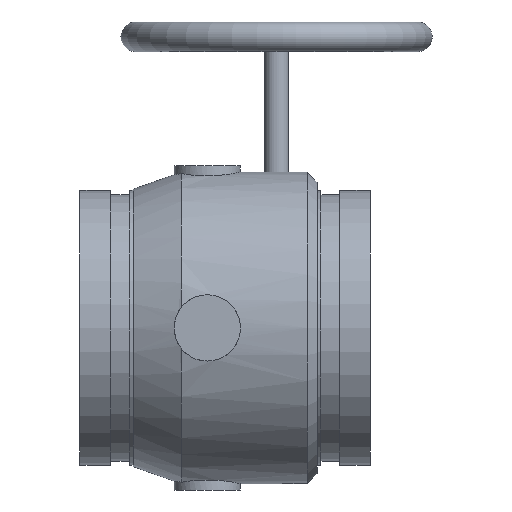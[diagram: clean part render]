
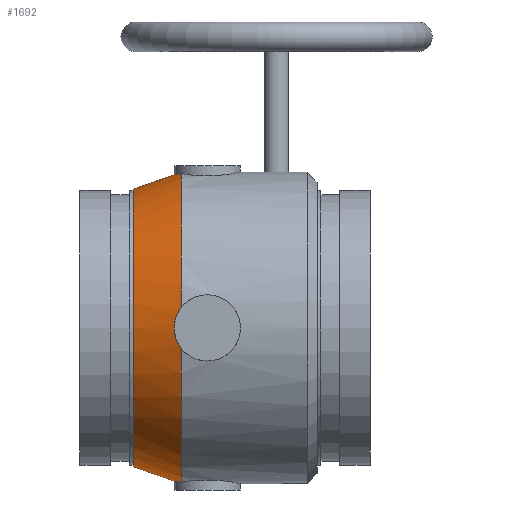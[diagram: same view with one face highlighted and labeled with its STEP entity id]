
A CAD part, front view. The second image highlights one B-rep face of the part: STEP entity #1692.
In plain terms, the highlighted conical face has half-angle 19.339 degrees and reference radius 75.687 mm.
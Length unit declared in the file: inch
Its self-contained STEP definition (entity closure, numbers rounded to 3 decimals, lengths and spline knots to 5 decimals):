
#25=B_SPLINE_CURVE_WITH_KNOTS('',3,(#2796,#2797,#2798,#2799,#2800,#2801,
#2802,#2803,#2804,#2805,#2806,#2807,#2808,#2809,#2810,#2811,#2812,#2813),
 .UNSPECIFIED.,.F.,.F.,(4,2,2,2,2,2,2,2,4),(3.55256,3.709,
4.01373,4.31846,4.62319,4.92791,5.23264,
5.53737,5.69382),.UNSPECIFIED.);
#26=B_SPLINE_CURVE_WITH_KNOTS('',3,(#2820,#2821,#2822,#2823,#2824,#2825,
#2826,#2827,#2828,#2829),.UNSPECIFIED.,.F.,.F.,(4,2,2,2,4),(4.62319,
4.92791,5.23264,5.53737,5.69382),
 .UNSPECIFIED.);
#27=B_SPLINE_CURVE_WITH_KNOTS('',3,(#2835,#2836,#2837,#2838,#2839,#2840,
#2841,#2842,#2843,#2844),.UNSPECIFIED.,.F.,.F.,(4,2,2,2,4),(3.55256,
3.709,4.01373,4.31846,4.62319),
 .UNSPECIFIED.);
#28=B_SPLINE_CURVE_WITH_KNOTS('',3,(#2845,#2846,#2847,#2848,#2849,#2850,
#2851,#2852,#2853,#2854,#2855,#2856,#2857,#2858,#2859,#2860,#2861,#2862),
 .UNSPECIFIED.,.F.,.F.,(4,2,2,2,2,2,2,2,4),(3.55256,3.709,
4.01373,4.31846,4.62319,4.92791,5.23264,
5.53737,5.69382),.UNSPECIFIED.);
#46=CONICAL_SURFACE('',#1820,2.97979,0.338);
#105=CIRCLE('',#1809,3.15);
#106=CIRCLE('',#1810,3.15);
#108=CIRCLE('',#1812,3.15);
#109=CIRCLE('',#1813,3.15);
#113=CIRCLE('',#1821,2.80958);
#114=CIRCLE('',#1822,2.80958);
#115=CIRCLE('',#1823,3.15);
#214=FACE_OUTER_BOUND('',#307,.T.);
#307=EDGE_LOOP('',(#1138,#1139,#1140,#1141,#1142,#1143,#1144,#1145,#1146,
#1147,#1148,#1149,#1150));
#436=LINE('',#2831,#550);
#550=VECTOR('',#2081,2.97979);
#657=VERTEX_POINT('',#2556);
#658=VERTEX_POINT('',#2586);
#660=VERTEX_POINT('',#2617);
#661=VERTEX_POINT('',#2647);
#668=VERTEX_POINT('',#2688);
#669=VERTEX_POINT('',#2699);
#671=VERTEX_POINT('',#2731);
#672=VERTEX_POINT('',#2760);
#676=VERTEX_POINT('',#2819);
#677=VERTEX_POINT('',#2830);
#678=VERTEX_POINT('',#2832);
#835=EDGE_CURVE('',#657,#658,#105,.T.);
#838=EDGE_CURVE('',#660,#661,#106,.T.);
#846=EDGE_CURVE('',#668,#669,#108,.T.);
#849=EDGE_CURVE('',#671,#672,#109,.T.);
#853=EDGE_CURVE('',#660,#658,#25,.T.);
#856=EDGE_CURVE('',#676,#657,#26,.T.);
#857=EDGE_CURVE('',#676,#677,#436,.T.);
#858=EDGE_CURVE('',#677,#678,#113,.T.);
#859=EDGE_CURVE('',#678,#677,#114,.T.);
#860=EDGE_CURVE('',#672,#676,#27,.T.);
#861=EDGE_CURVE('',#671,#669,#28,.T.);
#862=EDGE_CURVE('',#661,#668,#115,.T.);
#1138=ORIENTED_EDGE('',*,*,#853,.T.);
#1139=ORIENTED_EDGE('',*,*,#835,.F.);
#1140=ORIENTED_EDGE('',*,*,#856,.F.);
#1141=ORIENTED_EDGE('',*,*,#857,.T.);
#1142=ORIENTED_EDGE('',*,*,#858,.T.);
#1143=ORIENTED_EDGE('',*,*,#859,.T.);
#1144=ORIENTED_EDGE('',*,*,#857,.F.);
#1145=ORIENTED_EDGE('',*,*,#860,.F.);
#1146=ORIENTED_EDGE('',*,*,#849,.F.);
#1147=ORIENTED_EDGE('',*,*,#861,.T.);
#1148=ORIENTED_EDGE('',*,*,#846,.F.);
#1149=ORIENTED_EDGE('',*,*,#862,.F.);
#1150=ORIENTED_EDGE('',*,*,#838,.F.);
#1692=ADVANCED_FACE('',(#214),#46,.T.);
#1809=AXIS2_PLACEMENT_3D('',#2587,#2054,#2055);
#1810=AXIS2_PLACEMENT_3D('',#2648,#2056,#2057);
#1812=AXIS2_PLACEMENT_3D('',#2700,#2062,#2063);
#1813=AXIS2_PLACEMENT_3D('',#2761,#2064,#2065);
#1820=AXIS2_PLACEMENT_3D('',#2818,#2079,#2080);
#1821=AXIS2_PLACEMENT_3D('',#2833,#2082,#2083);
#1822=AXIS2_PLACEMENT_3D('',#2834,#2084,#2085);
#1823=AXIS2_PLACEMENT_3D('',#2863,#2086,#2087);
#2054=DIRECTION('center_axis',(1.,0.,0.));
#2055=DIRECTION('ref_axis',(0.,0.,-1.));
#2056=DIRECTION('center_axis',(1.,0.,0.));
#2057=DIRECTION('ref_axis',(0.,0.,-1.));
#2062=DIRECTION('center_axis',(1.,0.,0.));
#2063=DIRECTION('ref_axis',(0.,0.,-1.));
#2064=DIRECTION('center_axis',(1.,0.,0.));
#2065=DIRECTION('ref_axis',(0.,0.,-1.));
#2079=DIRECTION('center_axis',(1.,0.,0.));
#2080=DIRECTION('ref_axis',(0.,1.,0.));
#2081=DIRECTION('',(-0.944,0.331,0.));
#2082=DIRECTION('center_axis',(1.,0.,0.));
#2083=DIRECTION('ref_axis',(0.,0.,-1.));
#2084=DIRECTION('center_axis',(1.,0.,0.));
#2085=DIRECTION('ref_axis',(0.,0.,-1.));
#2086=DIRECTION('center_axis',(1.,0.,0.));
#2087=DIRECTION('ref_axis',(0.,1.,0.));
#2556=CARTESIAN_POINT('',(-0.53,-3.12322,-0.40988));
#2586=CARTESIAN_POINT('',(-0.53,-0.40988,-3.12322));
#2587=CARTESIAN_POINT('Origin',(-0.53,0.,
0.));
#2617=CARTESIAN_POINT('',(-0.53,0.40988,-3.12322));
#2647=CARTESIAN_POINT('',(-0.53,3.12386,-0.405));
#2648=CARTESIAN_POINT('Origin',(-0.53,0.,
0.));
#2688=CARTESIAN_POINT('',(-0.53,3.12386,0.405));
#2699=CARTESIAN_POINT('',(-0.53,0.40988,3.12322));
#2700=CARTESIAN_POINT('Origin',(-0.53,0.,
0.));
#2731=CARTESIAN_POINT('',(-0.53,-0.40988,3.12322));
#2760=CARTESIAN_POINT('',(-0.53,-3.12322,0.40988));
#2761=CARTESIAN_POINT('Origin',(-0.53,0.,
0.));
#2796=CARTESIAN_POINT('Ctrl Pts',(-0.53,0.40988,
-3.12322));
#2797=CARTESIAN_POINT('Ctrl Pts',(-0.54285,0.39327,
-3.12085));
#2798=CARTESIAN_POINT('Ctrl Pts',(-0.55509,0.37582,
-3.11868));
#2799=CARTESIAN_POINT('Ctrl Pts',(-0.58887,0.3223,
-3.11289));
#2800=CARTESIAN_POINT('Ctrl Pts',(-0.60821,0.28423,
-3.10984));
#2801=CARTESIAN_POINT('Ctrl Pts',(-0.63926,0.20508,-3.10514));
#2802=CARTESIAN_POINT('Ctrl Pts',(-0.65099,0.16395,-3.10349));
#2803=CARTESIAN_POINT('Ctrl Pts',(-0.66636,0.0814,
-3.10135));
#2804=CARTESIAN_POINT('Ctrl Pts',(-0.67,0.03999,-3.10087));
#2805=CARTESIAN_POINT('Ctrl Pts',(-0.67,-0.03999,-3.10087));
#2806=CARTESIAN_POINT('Ctrl Pts',(-0.66636,-0.0814,
-3.10135));
#2807=CARTESIAN_POINT('Ctrl Pts',(-0.65099,-0.16395,
-3.10349));
#2808=CARTESIAN_POINT('Ctrl Pts',(-0.63926,-0.20508,-3.10514));
#2809=CARTESIAN_POINT('Ctrl Pts',(-0.60821,-0.28423,
-3.10984));
#2810=CARTESIAN_POINT('Ctrl Pts',(-0.58887,-0.3223,
-3.11289));
#2811=CARTESIAN_POINT('Ctrl Pts',(-0.55509,-0.37582,
-3.11868));
#2812=CARTESIAN_POINT('Ctrl Pts',(-0.54285,-0.39327,
-3.12085));
#2813=CARTESIAN_POINT('Ctrl Pts',(-0.53,-0.40988,
-3.12322));
#2818=CARTESIAN_POINT('Origin',(-1.015,0.,0.));
#2819=CARTESIAN_POINT('',(-0.67,-3.10087,0.));
#2820=CARTESIAN_POINT('Ctrl Pts',(-0.67,-3.10087,0.));
#2821=CARTESIAN_POINT('Ctrl Pts',(-0.67,-3.10087,-0.03999));
#2822=CARTESIAN_POINT('Ctrl Pts',(-0.66636,-3.10135,
-0.0814));
#2823=CARTESIAN_POINT('Ctrl Pts',(-0.65099,-3.10349,
-0.16395));
#2824=CARTESIAN_POINT('Ctrl Pts',(-0.63926,-3.10514,-0.20508));
#2825=CARTESIAN_POINT('Ctrl Pts',(-0.60821,-3.10984,
-0.28423));
#2826=CARTESIAN_POINT('Ctrl Pts',(-0.58887,-3.11289,
-0.3223));
#2827=CARTESIAN_POINT('Ctrl Pts',(-0.55509,-3.11868,
-0.37582));
#2828=CARTESIAN_POINT('Ctrl Pts',(-0.54285,-3.12085,
-0.39327));
#2829=CARTESIAN_POINT('Ctrl Pts',(-0.53,-3.12322,
-0.40988));
#2830=CARTESIAN_POINT('',(-1.5,-2.80958,0.));
#2831=CARTESIAN_POINT('',(-1.015,-2.97979,0.));
#2832=CARTESIAN_POINT('',(-1.5,2.80958,0.));
#2833=CARTESIAN_POINT('Origin',(-1.5,0.,0.));
#2834=CARTESIAN_POINT('Origin',(-1.5,0.,0.));
#2835=CARTESIAN_POINT('Ctrl Pts',(-0.53,-3.12322,
0.40988));
#2836=CARTESIAN_POINT('Ctrl Pts',(-0.54285,-3.12085,
0.39327));
#2837=CARTESIAN_POINT('Ctrl Pts',(-0.55509,-3.11868,
0.37582));
#2838=CARTESIAN_POINT('Ctrl Pts',(-0.58887,-3.11289,
0.3223));
#2839=CARTESIAN_POINT('Ctrl Pts',(-0.60821,-3.10984,
0.28423));
#2840=CARTESIAN_POINT('Ctrl Pts',(-0.63926,-3.10514,0.20508));
#2841=CARTESIAN_POINT('Ctrl Pts',(-0.65099,-3.10349,
0.16395));
#2842=CARTESIAN_POINT('Ctrl Pts',(-0.66636,-3.10135,
0.0814));
#2843=CARTESIAN_POINT('Ctrl Pts',(-0.67,-3.10087,0.03999));
#2844=CARTESIAN_POINT('Ctrl Pts',(-0.67,-3.10087,0.));
#2845=CARTESIAN_POINT('Ctrl Pts',(-0.53,-0.40988,
3.12322));
#2846=CARTESIAN_POINT('Ctrl Pts',(-0.54285,-0.39327,
3.12085));
#2847=CARTESIAN_POINT('Ctrl Pts',(-0.55509,-0.37582,
3.11868));
#2848=CARTESIAN_POINT('Ctrl Pts',(-0.58887,-0.3223,
3.11289));
#2849=CARTESIAN_POINT('Ctrl Pts',(-0.60821,-0.28423,
3.10984));
#2850=CARTESIAN_POINT('Ctrl Pts',(-0.63926,-0.20508,3.10514));
#2851=CARTESIAN_POINT('Ctrl Pts',(-0.65099,-0.16395,
3.10349));
#2852=CARTESIAN_POINT('Ctrl Pts',(-0.66636,-0.0814,
3.10135));
#2853=CARTESIAN_POINT('Ctrl Pts',(-0.67,-0.03999,3.10087));
#2854=CARTESIAN_POINT('Ctrl Pts',(-0.67,0.03999,3.10087));
#2855=CARTESIAN_POINT('Ctrl Pts',(-0.66636,0.0814,
3.10135));
#2856=CARTESIAN_POINT('Ctrl Pts',(-0.65099,0.16395,3.10349));
#2857=CARTESIAN_POINT('Ctrl Pts',(-0.63926,0.20508,3.10514));
#2858=CARTESIAN_POINT('Ctrl Pts',(-0.60821,0.28423,
3.10984));
#2859=CARTESIAN_POINT('Ctrl Pts',(-0.58887,0.3223,
3.11289));
#2860=CARTESIAN_POINT('Ctrl Pts',(-0.55509,0.37582,
3.11868));
#2861=CARTESIAN_POINT('Ctrl Pts',(-0.54285,0.39327,
3.12085));
#2862=CARTESIAN_POINT('Ctrl Pts',(-0.53,0.40988,
3.12322));
#2863=CARTESIAN_POINT('Origin',(-0.53,0.,
0.));
